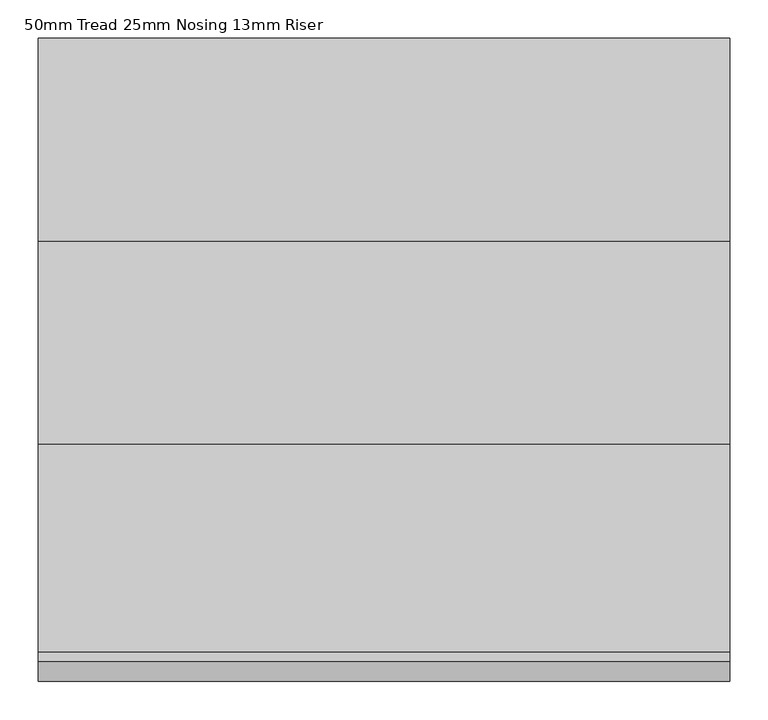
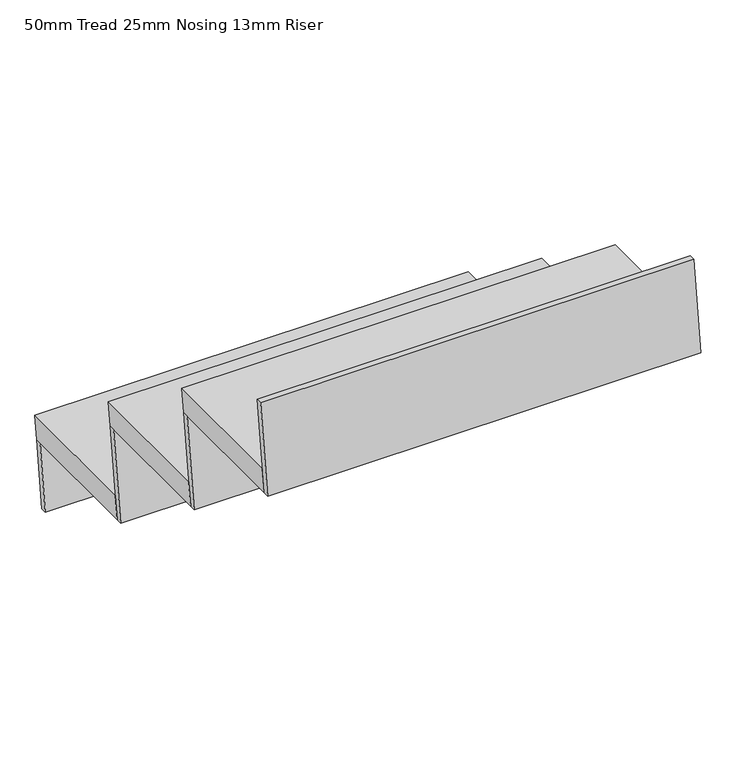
"""IFC4 building model written with IfcOpenShell, lengths in millimetres: stair flight geometry, 50mm Tread 25mm Nosing 13mm Riser."""

from ifc_helpers import new_model, si_unit, frame, origin, place, context, project, spatial, polyline, outline, extrude, source, transform, mapped, element, save


def stair_flight_50mm_tread_25mm_nosing_13mm_riser_114795e4(model_context):
    return source(origin(), model_context, "Body", "SweptSolid", [
        extrude(outline(polyline([(3354.9610667, -2552.7), (3644.9, -2552.7), (3638.3383202, -2602.7), (3348.3993869, -2602.7), (3354.9610667, -2552.7)])), frame((-2165.35, 0.0, 0.0), z_axis=(1.0, 0.0, 0.0), x_axis=(0.0, 1.0, 0.0)), (0.0, 0.0, 1.0), 901.7),
        extrude(outline(polyline([(3638.3383202, -2602.7), (3619.9, -2743.2), (3607.2928204, -2743.2), (3625.7311406, -2602.7), (3638.3383202, -2602.7)])), frame((-2165.35, 0.0, 0.0), z_axis=(1.0, 0.0, 0.0), x_axis=(0.0, 1.0, 0.0)), (0.0, 0.0, 1.0), 901.7),
        extrude(outline(polyline([(3373.3993869, -2412.2), (3348.3993869, -2602.7), (3335.7922073, -2602.7), (3360.7922073, -2412.2), (3373.3993869, -2412.2)])), frame((-2165.35, 0.0, 0.0), z_axis=(1.0, 0.0, 0.0), x_axis=(0.0, 1.0, 0.0)), (0.0, 0.0, 1.0), 901.7),
        extrude(outline(polyline([(3090.0221333, -2362.2), (3379.9610667, -2362.2), (3373.3993869, -2412.2), (3083.4604535, -2412.2), (3090.0221333, -2362.2)])), frame((-2165.35, 0.0, 0.0), z_axis=(1.0, 0.0, 0.0), x_axis=(0.0, 1.0, 0.0)), (0.0, 0.0, 1.0), 901.7),
        extrude(outline(polyline([(3108.4604535, -2221.7), (3083.4604535, -2412.2), (3070.8532739, -2412.2), (3095.8532739, -2221.7), (3108.4604535, -2221.7)])), frame((-2165.35, 0.0, 0.0), z_axis=(1.0, 0.0, 0.0), x_axis=(0.0, 1.0, 0.0)), (0.0, 0.0, 1.0), 901.7),
        extrude(outline(polyline([(2843.5215202, -2031.2), (2818.5215202, -2221.7), (2805.9143406, -2221.7), (2830.9143406, -2031.2), (2843.5215202, -2031.2)])), frame((-2165.35, 0.0, 0.0), z_axis=(1.0, 0.0, 0.0), x_axis=(0.0, 1.0, 0.0)), (0.0, 0.0, 1.0), 901.7),
        extrude(outline(polyline([(2825.0832, -2171.7), (3115.0221333, -2171.7), (3108.4604535, -2221.7), (2818.5215202, -2221.7), (2825.0832, -2171.7)])), frame((-2165.35, 0.0, 0.0), z_axis=(1.0, 0.0, 0.0), x_axis=(0.0, 1.0, 0.0)), (0.0, 0.0, 1.0), 901.7),
    ])


if __name__ == "__main__":
    model = new_model("IFC4")
    model_context = context("Model", 3, world=origin())
    ifc_project = project(units=[si_unit("LENGTHUNIT", "METRE", prefix="MILLI")], contexts=[model_context])
    site = spatial("IfcSite", under=ifc_project)
    building = spatial("IfcBuilding", under=site)
    placement = place(None, origin())
    stair_flight_50mm_tread_25mm_nosing_13mm_riser_shape = stair_flight_50mm_tread_25mm_nosing_13mm_riser_114795e4(model_context)
    element("IfcStairFlight", 1, ObjectType="50mm Tread 25mm Nosing 13mm Riser", at=placement, inside=building, context=model_context, shape_type="MappedRepresentation", body=[
        mapped(stair_flight_50mm_tread_25mm_nosing_13mm_riser_shape, transform((0.0, 0.0, 0.0), x_axis=(1.0, 0.0, 0.0), y_axis=(0.0, 1.0, 0.0), z_axis=(0.0, 0.0, 1.0))),
    ])
    save(model, "model.ifc")
